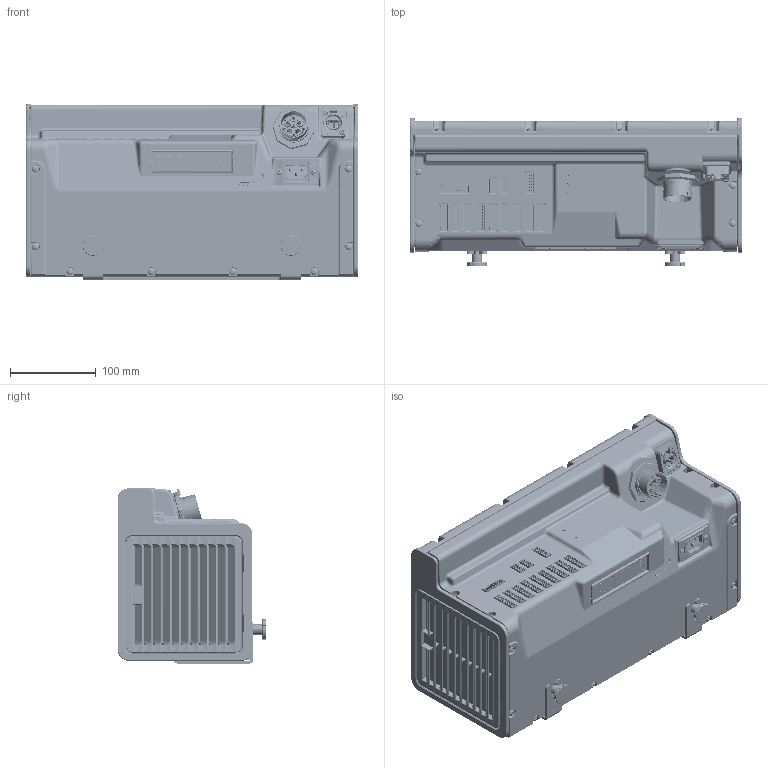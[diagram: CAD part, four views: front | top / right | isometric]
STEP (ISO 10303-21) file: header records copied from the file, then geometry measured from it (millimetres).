
FILE_DESCRIPTION (( 'STEP AP214' ), '1' );
FILE_NAME ('782-931-02_Filled_Packaging.STEP', '2026-10-02T12:10:59', ( '' ), ( '' ), 'SwSTEP 2.0', 'SolidWorks 2025', '' );
FILE_SCHEMA (( 'AUTOMOTIVE_DESIGN' ));
Products named in the file (1): 782-931-02_Filled_Packaging
Bounding box: 387 x 173.37 x 204.3 mm (x, y, z)
Surface area: 553744.1 mm2 (no closed solid volume)
Topology: 0 solids, 117 shells, 12792 faces, 33639 edges, 21182 vertices
Faces by surface type: plane 7475, cylinder 3100, bspline 1438, cone 486, torus 180, sphere 113
Entity records: 450481 total; most frequent: CARTESIAN_POINT 157058, ORIENTED_EDGE 66778, DIRECTION 53223, EDGE_CURVE 33431, VERTEX_POINT 21160, LINE 18647, VECTOR 18647, AXIS2_PLACEMENT_3D 17288
